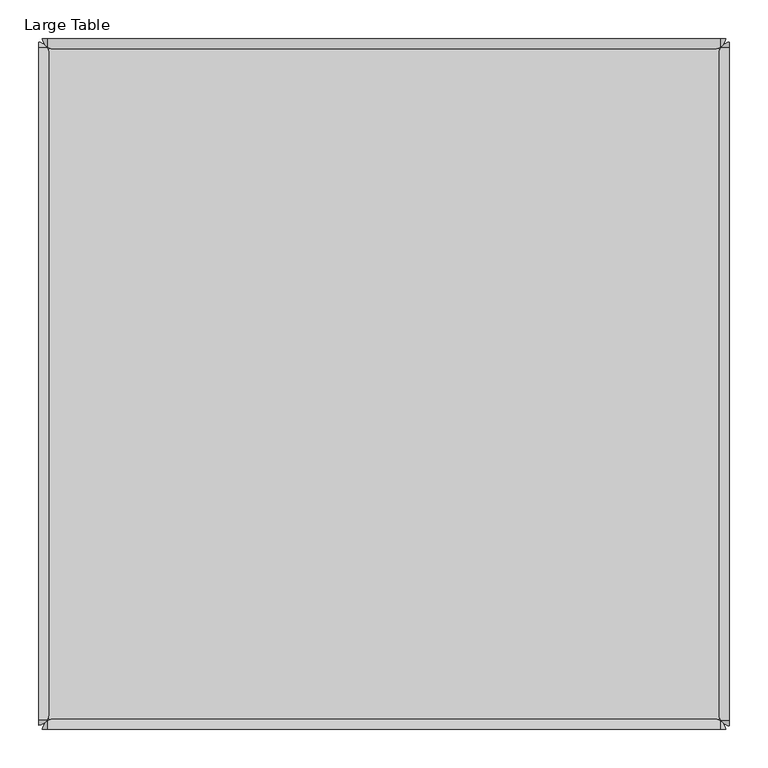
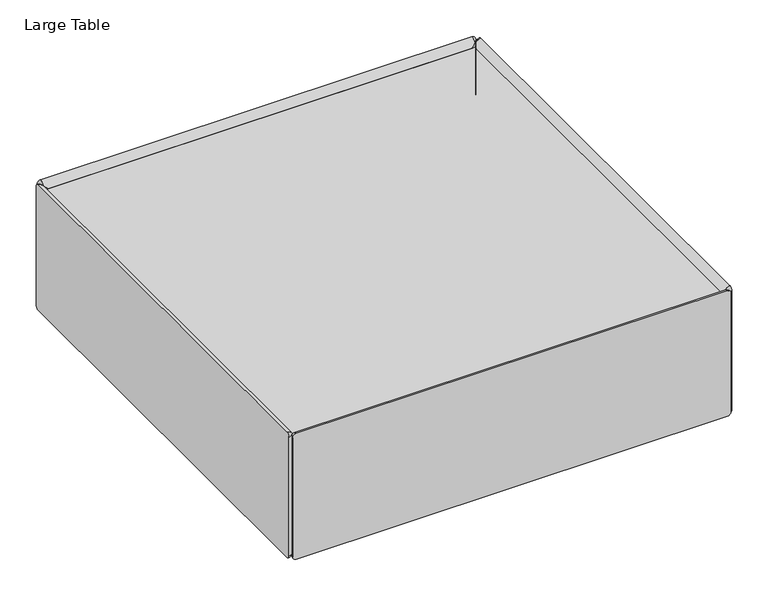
"""IFC4 building model written with IfcOpenShell, lengths in millimetres: furniture geometry, Stylex - Yoom Table : Large Table."""

from ifc_helpers import new_model, si_unit, point, frame, origin, place, context, project, spatial, polyline, circle_curve, ellipse_curve, trimmed, outline, extrude, source, transform, mapped, element, save
from ifc_brep_helpers import plane_surface, cylinder_surface, revolved_surface, advanced_brep


def large_table_a205c7c4(model_context):
    return source(origin(), model_context, "Body", "SolidModel", [
        advanced_brep(
        [(440.0098719, -444.5, 284.9798269), (440.0098719, -444.5, 32.6238748), (432.8643302, -433.6501466, 32.6238748), (425.7223719, -431.7512608, 39.765833), (425.7223719, -431.7512608, 277.8378687), (432.8643302, -433.6501466, 284.9798269), (432.8643302, -444.5, 25.478333), (-432.8643302, -444.5, 25.478333), (-432.8643302, -433.6501466, 32.6238748), (-425.7223719, -431.7512608, 39.765833), (-440.0098719, -444.5, 32.6238748), (-440.0098719, -444.5, 284.9798269), (-432.8643302, -433.6501466, 284.9798269), (-425.7223719, -431.7512608, 277.8378687), (432.8643302, -444.5, 292.1253687), (-432.8643302, -444.5, 292.1253687)],
        [
            (0, 1),
            (1, 2, circle_curve(frame((425.7223719, -446.1316243, 32.6238748), z_axis=(0.0, 0.0, 1.0), x_axis=(1.0, 0.0, 0.0)), 14.3803635)),
            (2, 3, ellipse_curve(frame((425.7223719, -446.1316243, 39.765833), z_axis=(0.7071067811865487, 0.0, 0.7071067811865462), x_axis=(-0.7071067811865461, 0.0, 0.7071067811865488)), 20.3369051, 14.3803635)),
            (3, 4),
            (4, 5, ellipse_curve(frame((425.7223719, -446.1316243, 277.8378687), z_axis=(0.7071067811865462, 0.0, -0.7071067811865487), x_axis=(0.7071067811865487, 0.0, 0.7071067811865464)), 20.3369051, 14.3803635)),
            (5, 0, circle_curve(frame((425.7223719, -446.1316243, 284.9798269), z_axis=(0.0, 0.0, -1.0), x_axis=(1.0, 0.0, 0.0)), 14.3803635)),
            (2, 6, circle_curve(frame((432.8643302, -446.1316243, 39.765833), z_axis=(-1.0, 0.0, 0.0), x_axis=(0.0, 0.0, -1.0)), 14.3803635)),
            (6, 7),
            (7, 8, circle_curve(frame((-432.8643302, -446.1316243, 39.765833), z_axis=(1.0, 0.0, 0.0), x_axis=(0.0, 0.0, -1.0)), 14.3803635)),
            (8, 9, ellipse_curve(frame((-425.7223719, -446.1316243, 39.765833), z_axis=(0.7071067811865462, 0.0, -0.7071067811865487), x_axis=(0.7071067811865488, 0.0, 0.7071067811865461)), 20.3369051, 14.3803635)),
            (9, 3),
            (8, 10, circle_curve(frame((-425.7223719, -446.1316243, 32.6238748), z_axis=(0.0, 0.0, 1.0), x_axis=(-1.0, 0.0, 0.0)), 14.3803635)),
            (10, 11),
            (11, 12, circle_curve(frame((-425.7223719, -446.1316243, 284.9798269), z_axis=(0.0, 0.0, -1.0), x_axis=(-1.0, 0.0, 0.0)), 14.3803635)),
            (12, 13, ellipse_curve(frame((-425.7223719, -446.1316243, 277.8378687), z_axis=(-0.7071067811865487, 0.0, -0.7071067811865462), x_axis=(0.7071067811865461, 0.0, -0.7071067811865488)), 20.3369051, 14.3803635)),
            (13, 9),
            (0, 14, circle_curve(frame((432.8643302, -444.5, 284.9798269), z_axis=(0.0, -1.0, 0.0), x_axis=(0.0, 0.0, 1.0)), 7.1455418)),
            (14, 15),
            (15, 11, circle_curve(frame((-432.8643302, -444.5, 284.9798269), z_axis=(0.0, -1.0, 0.0), x_axis=(0.0, 0.0, 1.0)), 7.1455418)),
            (10, 7, circle_curve(frame((-432.8643302, -444.5, 32.6238748), z_axis=(0.0, -1.0, 0.0), x_axis=(0.0, 0.0, -1.0)), 7.1455418)),
            (6, 1, circle_curve(frame((432.8643302, -444.5, 32.6238748), z_axis=(0.0, -1.0, 0.0), x_axis=(0.0, 0.0, -1.0)), 7.1455418)),
            (12, 15, circle_curve(frame((-432.8643302, -446.1316243, 277.8378687), z_axis=(1.0, 0.0, 0.0), x_axis=(0.0, 0.0, 1.0)), 14.3803635)),
            (14, 5, circle_curve(frame((432.8643302, -446.1316243, 277.8378687), z_axis=(-1.0, 0.0, 0.0), x_axis=(0.0, 0.0, 1.0)), 14.3803635)),
            (4, 13),
        ],
        [
            cylinder_surface(frame((425.7223719, -446.1316243, 277.8378687), z_axis=(0.0, 0.0, 1.0), x_axis=(1.0, 0.0, 0.0)), 14.3803635),
            cylinder_surface(frame((425.7223719, -446.1316243, 39.765833), z_axis=(1.0, 0.0, 0.0), x_axis=(0.0, 0.0, -1.0)), 14.3803635),
            cylinder_surface(frame((-425.7223719, -446.1316243, 39.765833), z_axis=(0.0, 0.0, -1.0), x_axis=(-1.0, 0.0, 0.0)), 14.3803635),
            plane_surface(frame((-425.7223719, -444.5, 277.8378687), z_axis=(0.0, -1.0, 0.0), x_axis=(1.0, 0.0, 0.0))),
            cylinder_surface(frame((-425.7223719, -446.1316243, 277.8378687), z_axis=(-1.0, 0.0, 0.0), x_axis=(0.0, 0.0, 1.0)), 14.3803635),
            revolved_surface(trimmed(ellipse_curve(frame((-432.8643302, -446.1316243, 277.8378687), z_axis=(-1.0, 0.0, 0.0), x_axis=(0.0, 0.0, -1.0)), 14.3803635, 14.3803635), [point((-432.8643302, -444.5, 292.1253687))], [point((-432.8643302, -433.6501466, 284.9798269))], True, "CARTESIAN"), (-432.8643302, -431.7512608, 284.9798269), (0.0, 1.0, 0.0)),
            plane_surface(frame((-425.7223719, -431.7512608, 277.8378687), z_axis=(0.0, 1.0, 0.0), x_axis=(1.0, 0.0, 0.0))),
            revolved_surface(trimmed(ellipse_curve(frame((-432.8643302, -446.1316243, 39.765833), z_axis=(-1.0, 0.0, 0.0), x_axis=(0.0, 0.0, 1.0)), 14.3803635, 14.3803635), [point((-432.8643302, -433.6501466, 32.6238748))], [point((-432.8643302, -444.5, 25.478333))], True, "CARTESIAN"), (-432.8643302, -431.7512608, 32.6238748), (0.0, -1.0, 0.0)),
            revolved_surface(trimmed(ellipse_curve(frame((432.8643302, -446.1316243, 39.765833), z_axis=(1.0, 0.0, 0.0), x_axis=(0.0, 0.0, -1.0)), 14.3803635, 14.3803635), [point((432.8643302, -444.5, 25.478333))], [point((432.8643302, -433.6501466, 32.6238748))], True, "CARTESIAN"), (432.8643302, -431.7512608, 32.6238748), (0.0, 1.0, 0.0)),
            revolved_surface(trimmed(ellipse_curve(frame((432.8643302, -446.1316243, 277.8378687), z_axis=(1.0, 0.0, 0.0), x_axis=(0.0, 0.0, -1.0)), 14.3803635, 14.3803635), [point((432.8643302, -433.6501466, 284.9798269))], [point((432.8643302, -444.5, 292.1253687))], True, "CARTESIAN"), (432.8643302, -431.7512608, 284.9798269), (0.0, -1.0, 0.0)),
        ],
        [
            (0, [[1, 2, 3, 4, 5, 6]]),
            (1, [[-3, 7, 8, 9, 10, 11]]),
            (2, [[-10, 12, 13, 14, 15, 16]]),
            (3, [[-1, 17, 18, 19, -13, 20, -8, 21]]),
            (4, [[-15, 22, -18, 23, -5, 24]]),
            (5, [[-19, -22, -14]]),
            (6, [[-4, -11, -16, -24]]),
            (7, [[-20, -12, -9]]),
            (8, [[-21, -7, -2]]),
            (9, [[-17, -6, -23]]),
        ],
    ),
        advanced_brep(
        [(-440.0098719, 444.5, 284.9798269), (-440.0098719, 444.5, 32.6238748), (-432.8643302, 433.6501466, 32.6238748), (-425.7223719, 431.7512608, 39.765833), (-425.7223719, 431.7512608, 277.8378687), (-432.8643302, 433.6501466, 284.9798269), (-432.8643302, 444.5, 25.478333), (432.8643302, 444.5, 25.478333), (432.8643302, 433.6501466, 32.6238748), (425.7223719, 431.7512608, 39.765833), (440.0098719, 444.5, 32.6238748), (440.0098719, 444.5, 284.9798269), (432.8643302, 433.6501466, 284.9798269), (425.7223719, 431.7512608, 277.8378687), (-432.8643302, 444.5, 292.1253687), (432.8643302, 444.5, 292.1253687)],
        [
            (0, 1),
            (1, 2, circle_curve(frame((-425.7223719, 446.1316243, 32.6238748), z_axis=(0.0, 0.0, 1.0), x_axis=(-1.0, 0.0, 0.0)), 14.3803635)),
            (2, 3, ellipse_curve(frame((-425.7223719, 446.1316243, 39.765833), z_axis=(-0.7071067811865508, 0.0, 0.7071067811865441), x_axis=(0.7071067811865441, 0.0, 0.7071067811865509)), 20.3369051, 14.3803635)),
            (3, 4),
            (4, 5, ellipse_curve(frame((-425.7223719, 446.1316243, 277.8378687), z_axis=(-0.7071067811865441, 0.0, -0.7071067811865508), x_axis=(-0.7071067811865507, 0.0, 0.7071067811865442)), 20.3369051, 14.3803635)),
            (5, 0, circle_curve(frame((-425.7223719, 446.1316243, 284.9798269), z_axis=(0.0, 0.0, -1.0), x_axis=(-1.0, 0.0, 0.0)), 14.3803635)),
            (2, 6, circle_curve(frame((-432.8643302, 446.1316243, 39.765833), z_axis=(1.0, 0.0, 0.0), x_axis=(0.0, 0.0, -1.0)), 14.3803635)),
            (6, 7),
            (7, 8, circle_curve(frame((432.8643302, 446.1316243, 39.765833), z_axis=(-1.0, 0.0, 0.0), x_axis=(0.0, 0.0, -1.0)), 14.3803635)),
            (8, 9, ellipse_curve(frame((425.7223719, 446.1316243, 39.765833), z_axis=(-0.7071067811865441, 0.0, -0.7071067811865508), x_axis=(-0.7071067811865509, 0.0, 0.7071067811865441)), 20.3369051, 14.3803635)),
            (9, 3),
            (8, 10, circle_curve(frame((425.7223719, 446.1316243, 32.6238748), z_axis=(0.0, 0.0, 1.0), x_axis=(1.0, 0.0, 0.0)), 14.3803635)),
            (10, 11),
            (11, 12, circle_curve(frame((425.7223719, 446.1316243, 284.9798269), z_axis=(0.0, 0.0, -1.0), x_axis=(1.0, 0.0, 0.0)), 14.3803635)),
            (12, 13, ellipse_curve(frame((425.7223719, 446.1316243, 277.8378687), z_axis=(0.7071067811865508, 0.0, -0.7071067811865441), x_axis=(-0.7071067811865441, 0.0, -0.7071067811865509)), 20.3369051, 14.3803635)),
            (13, 9),
            (0, 14, circle_curve(frame((-432.8643302, 444.5, 284.9798269), z_axis=(0.0, 1.0, 0.0), x_axis=(0.0, 0.0, 1.0)), 7.1455418)),
            (14, 15),
            (15, 11, circle_curve(frame((432.8643302, 444.5, 284.9798269), z_axis=(0.0, 1.0, 0.0), x_axis=(0.0, 0.0, 1.0)), 7.1455418)),
            (10, 7, circle_curve(frame((432.8643302, 444.5, 32.6238748), z_axis=(0.0, 1.0, 0.0), x_axis=(0.0, 0.0, -1.0)), 7.1455418)),
            (6, 1, circle_curve(frame((-432.8643302, 444.5, 32.6238748), z_axis=(0.0, 1.0, 0.0), x_axis=(0.0, 0.0, -1.0)), 7.1455418)),
            (12, 15, circle_curve(frame((432.8643302, 446.1316243, 277.8378687), z_axis=(-1.0, 0.0, 0.0), x_axis=(0.0, 0.0, 1.0)), 14.3803635)),
            (14, 5, circle_curve(frame((-432.8643302, 446.1316243, 277.8378687), z_axis=(1.0, 0.0, 0.0), x_axis=(0.0, 0.0, 1.0)), 14.3803635)),
            (4, 13),
        ],
        [
            cylinder_surface(frame((-425.7223719, 446.1316243, 277.8378687), z_axis=(0.0, 0.0, 1.0), x_axis=(-1.0, 0.0, 0.0)), 14.3803635),
            cylinder_surface(frame((-425.7223719, 446.1316243, 39.765833), z_axis=(-1.0, 0.0, 0.0), x_axis=(0.0, 0.0, -1.0)), 14.3803635),
            cylinder_surface(frame((425.7223719, 446.1316243, 39.765833), z_axis=(0.0, 0.0, -1.0), x_axis=(1.0, 0.0, 0.0)), 14.3803635),
            plane_surface(frame((425.7223719, 444.5, 277.8378687), z_axis=(0.0, 1.0, 0.0), x_axis=(-1.0, 0.0, 0.0))),
            cylinder_surface(frame((425.7223719, 446.1316243, 277.8378687), z_axis=(1.0, 0.0, 0.0), x_axis=(0.0, 0.0, 1.0)), 14.3803635),
            revolved_surface(trimmed(ellipse_curve(frame((432.8643302, 446.1316243, 277.8378687), z_axis=(1.0, 0.0, 0.0), x_axis=(0.0, 0.0, -1.0)), 14.3803635, 14.3803635), [point((432.8643302, 444.5, 292.1253687))], [point((432.8643302, 433.6501466, 284.9798269))], True, "CARTESIAN"), (432.8643302, 431.7512608, 284.9798269), (0.0, -1.0, 0.0)),
            plane_surface(frame((425.7223719, 431.7512608, 277.8378687), z_axis=(0.0, -1.0, 0.0), x_axis=(-1.0, 0.0, 0.0))),
            revolved_surface(trimmed(ellipse_curve(frame((432.8643302, 446.1316243, 39.765833), z_axis=(1.0, 0.0, 0.0), x_axis=(0.0, 0.0, 1.0)), 14.3803635, 14.3803635), [point((432.8643302, 433.6501466, 32.6238748))], [point((432.8643302, 444.5, 25.478333))], True, "CARTESIAN"), (432.8643302, 431.7512608, 32.6238748), (0.0, 1.0, 0.0)),
            revolved_surface(trimmed(ellipse_curve(frame((-432.8643302, 446.1316243, 39.765833), z_axis=(-1.0, 0.0, 0.0), x_axis=(0.0, 0.0, -1.0)), 14.3803635, 14.3803635), [point((-432.8643302, 444.5, 25.478333))], [point((-432.8643302, 433.6501466, 32.6238748))], True, "CARTESIAN"), (-432.8643302, 431.7512608, 32.6238748), (0.0, -1.0, 0.0)),
            revolved_surface(trimmed(ellipse_curve(frame((-432.8643302, 446.1316243, 277.8378687), z_axis=(-1.0, 0.0, 0.0), x_axis=(0.0, 0.0, -1.0)), 14.3803635, 14.3803635), [point((-432.8643302, 433.6501466, 284.9798269))], [point((-432.8643302, 444.5, 292.1253687))], True, "CARTESIAN"), (-432.8643302, 431.7512608, 284.9798269), (0.0, 1.0, 0.0)),
        ],
        [
            (0, [[1, 2, 3, 4, 5, 6]]),
            (1, [[-3, 7, 8, 9, 10, 11]]),
            (2, [[-10, 12, 13, 14, 15, 16]]),
            (3, [[-1, 17, 18, 19, -13, 20, -8, 21]]),
            (4, [[-15, 22, -18, 23, -5, 24]]),
            (5, [[-19, -22, -14]]),
            (6, [[-4, -11, -16, -24]]),
            (7, [[-20, -12, -9]]),
            (8, [[-21, -7, -2]]),
            (9, [[-17, -6, -23]]),
        ],
    ),
        advanced_brep(
        [(-444.5, 440.0098719, 32.6238748), (-444.5, 440.0098719, 284.9798269), (-433.6501466, 432.8643302, 284.9798269), (-431.7512608, 425.7223719, 277.8378687), (-431.7512608, 425.7223719, 39.765833), (-433.6501466, 432.8643302, 32.6238748), (-444.5, 432.8643302, 292.1253687), (-444.5, -432.1193193, 292.1253687), (-433.6501466, -432.1193193, 284.9798269), (-431.7512608, -424.9773611, 277.8378687), (-444.5, -439.2648611, 284.9798269), (-444.5, -439.2648611, 32.6238748), (-433.6501466, -432.1193193, 32.6238748), (-431.7512608, -424.9773611, 39.765833), (-444.5, 432.8643302, 25.478333), (-444.5, -432.1193193, 25.478333)],
        [
            (0, 1),
            (1, 2, circle_curve(frame((-446.1316243, 425.7223719, 284.9798269), z_axis=(0.0, 0.0, -1.0), x_axis=(0.0, 1.0, 0.0)), 14.3803635)),
            (2, 3, ellipse_curve(frame((-446.1316243, 425.7223719, 277.8378687), z_axis=(0.0, 0.7071067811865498, -0.7071067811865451), x_axis=(0.0, -0.7071067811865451, -0.70710678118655)), 20.3369051, 14.3803635)),
            (3, 4),
            (4, 5, ellipse_curve(frame((-446.1316243, 425.7223719, 39.765833), z_axis=(0.0, 0.7071067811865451, 0.7071067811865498), x_axis=(0.0, 0.7071067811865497, -0.7071067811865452)), 20.3369051, 14.3803635)),
            (5, 0, circle_curve(frame((-446.1316243, 425.7223719, 32.6238748), z_axis=(0.0, 0.0, 1.0), x_axis=(0.0, 1.0, 0.0)), 14.3803635)),
            (2, 6, circle_curve(frame((-446.1316243, 432.8643302, 277.8378687), z_axis=(0.0, -1.0, 0.0), x_axis=(0.0, 0.0, 1.0)), 14.3803635)),
            (6, 7),
            (7, 8, circle_curve(frame((-446.1316243, -432.1193193, 277.8378687), z_axis=(0.0, 1.0, 0.0), x_axis=(0.0, 0.0, 1.0)), 14.3803635)),
            (8, 9, ellipse_curve(frame((-446.1316243, -424.9773611, 277.8378687), z_axis=(0.0, 0.7071067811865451, 0.7071067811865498), x_axis=(0.0, 0.70710678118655, -0.7071067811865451)), 20.3369051, 14.3803635)),
            (9, 3),
            (8, 10, circle_curve(frame((-446.1316243, -424.9773611, 284.9798269), z_axis=(0.0, 0.0, -1.0), x_axis=(0.0, -1.0, 0.0)), 14.3803635)),
            (10, 11),
            (11, 12, circle_curve(frame((-446.1316243, -424.9773611, 32.6238748), z_axis=(0.0, 0.0, 1.0), x_axis=(0.0, -1.0, 0.0)), 14.3803635)),
            (12, 13, ellipse_curve(frame((-446.1316243, -424.9773611, 39.765833), z_axis=(0.0, -0.7071067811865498, 0.7071067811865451), x_axis=(0.0, 0.7071067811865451, 0.70710678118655)), 20.3369051, 14.3803635)),
            (13, 9),
            (0, 14, circle_curve(frame((-444.5, 432.8643302, 32.6238748), z_axis=(-1.0, 0.0, 0.0), x_axis=(0.0, 0.0, -1.0)), 7.1455418)),
            (14, 15),
            (15, 11, circle_curve(frame((-444.5, -432.1193193, 32.6238748), z_axis=(-1.0, 0.0, 0.0), x_axis=(0.0, 0.0, -1.0)), 7.1455418)),
            (10, 7, circle_curve(frame((-444.5, -432.1193193, 284.9798269), z_axis=(-1.0, 0.0, 0.0), x_axis=(0.0, 0.0, 1.0)), 7.1455418)),
            (6, 1, circle_curve(frame((-444.5, 432.8643302, 284.9798269), z_axis=(-1.0, 0.0, 0.0), x_axis=(0.0, 0.0, 1.0)), 7.1455418)),
            (12, 15, circle_curve(frame((-446.1316243, -432.1193193, 39.765833), z_axis=(0.0, 1.0, 0.0), x_axis=(0.0, 0.0, -1.0)), 14.3803635)),
            (14, 5, circle_curve(frame((-446.1316243, 432.8643302, 39.765833), z_axis=(0.0, -1.0, 0.0), x_axis=(0.0, 0.0, -1.0)), 14.3803635)),
            (4, 13),
        ],
        [
            cylinder_surface(frame((-446.1316243, 425.7223719, 39.765833), z_axis=(0.0, 0.0, -1.0), x_axis=(0.0, 1.0, 0.0)), 14.3803635),
            cylinder_surface(frame((-446.1316243, 425.7223719, 277.8378687), z_axis=(0.0, 1.0, 0.0), x_axis=(0.0, 0.0, 1.0)), 14.3803635),
            cylinder_surface(frame((-446.1316243, -424.9773611, 277.8378687), z_axis=(0.0, 0.0, 1.0), x_axis=(0.0, -1.0, 0.0)), 14.3803635),
            plane_surface(frame((-444.5, -424.9773611, 39.765833), z_axis=(-1.0, 0.0, 0.0), x_axis=(0.0, 1.0, 0.0))),
            cylinder_surface(frame((-446.1316243, -424.9773611, 39.765833), z_axis=(0.0, -1.0, 0.0), x_axis=(0.0, 0.0, -1.0)), 14.3803635),
            revolved_surface(trimmed(ellipse_curve(frame((-446.1316243, -432.1193193, 39.765833), z_axis=(0.0, -1.0, 0.0), x_axis=(0.0, 0.0, 1.0)), 14.3803635, 14.3803635), [point((-444.5, -432.1193193, 25.478333))], [point((-433.6501466, -432.1193193, 32.6238748))], True, "CARTESIAN"), (-431.7512608, -432.1193193, 32.6238748), (1.0, 0.0, 0.0)),
            plane_surface(frame((-431.7512608, -424.9773611, 39.765833), z_axis=(1.0, 0.0, 0.0), x_axis=(0.0, 1.0, 0.0))),
            revolved_surface(trimmed(ellipse_curve(frame((-446.1316243, -432.1193193, 277.8378687), z_axis=(0.0, -1.0, 0.0), x_axis=(0.0, 0.0, -1.0)), 14.3803635, 14.3803635), [point((-433.6501466, -432.1193193, 284.9798269))], [point((-444.5, -432.1193193, 292.1253687))], True, "CARTESIAN"), (-431.7512608, -432.1193193, 284.9798269), (-1.0, 0.0, 0.0)),
            revolved_surface(trimmed(ellipse_curve(frame((-446.1316243, 432.8643302, 277.8378687), z_axis=(0.0, 1.0, 0.0), x_axis=(0.0, 0.0, 1.0)), 14.3803635, 14.3803635), [point((-444.5, 432.8643302, 292.1253687))], [point((-433.6501466, 432.8643302, 284.9798269))], True, "CARTESIAN"), (-431.7512608, 432.8643302, 284.9798269), (1.0, 0.0, 0.0)),
            revolved_surface(trimmed(ellipse_curve(frame((-446.1316243, 432.8643302, 39.765833), z_axis=(0.0, 1.0, 0.0), x_axis=(0.0, 0.0, 1.0)), 14.3803635, 14.3803635), [point((-433.6501466, 432.8643302, 32.6238748))], [point((-444.5, 432.8643302, 25.478333))], True, "CARTESIAN"), (-431.7512608, 432.8643302, 32.6238748), (-1.0, 0.0, 0.0)),
        ],
        [
            (0, [[1, 2, 3, 4, 5, 6]]),
            (1, [[-3, 7, 8, 9, 10, 11]]),
            (2, [[-10, 12, 13, 14, 15, 16]]),
            (3, [[-1, 17, 18, 19, -13, 20, -8, 21]]),
            (4, [[-15, 22, -18, 23, -5, 24]]),
            (5, [[-19, -22, -14]]),
            (6, [[-4, -11, -16, -24]]),
            (7, [[-20, -12, -9]]),
            (8, [[-21, -7, -2]]),
            (9, [[-17, -6, -23]]),
        ],
    ),
        advanced_brep(
        [(444.5, -440.0098719, 32.4979399), (444.5, -440.0098719, 284.8538921), (433.6501466, -432.8643302, 284.8538921), (431.7512608, -425.7223719, 277.7119339), (431.7512608, -425.7223719, 39.6398982), (433.6501466, -432.8643302, 32.4979399), (444.5, -432.8643302, 291.9994339), (444.5, 432.8643302, 291.9994339), (433.6501466, 432.8643302, 284.8538921), (431.7512608, 425.7223719, 277.7119339), (444.5, 440.0098719, 284.8538921), (444.5, 440.0098719, 32.4979399), (433.6501466, 432.8643302, 32.4979399), (431.7512608, 425.7223719, 39.6398982), (444.5, -432.8643302, 25.3523982), (444.5, 432.8643302, 25.3523982)],
        [
            (0, 1),
            (1, 2, circle_curve(frame((446.1316243, -425.7223719, 284.8538921), z_axis=(0.0, 0.0, -1.0), x_axis=(0.0, -1.0, 0.0)), 14.3803635)),
            (2, 3, ellipse_curve(frame((446.1316243, -425.7223719, 277.7119339), z_axis=(0.0, -0.7071067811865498, -0.7071067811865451), x_axis=(0.0, 0.7071067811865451, -0.70710678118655)), 20.3369051, 14.3803635)),
            (3, 4),
            (4, 5, ellipse_curve(frame((446.1316243, -425.7223719, 39.6398982), z_axis=(0.0, -0.7071067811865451, 0.7071067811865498), x_axis=(0.0, -0.7071067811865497, -0.7071067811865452)), 20.3369051, 14.3803635)),
            (5, 0, circle_curve(frame((446.1316243, -425.7223719, 32.4979399), z_axis=(0.0, 0.0, 1.0), x_axis=(0.0, -1.0, 0.0)), 14.3803635)),
            (2, 6, circle_curve(frame((446.1316243, -432.8643302, 277.7119339), z_axis=(0.0, 1.0, 0.0), x_axis=(0.0, 0.0, 1.0)), 14.3803635)),
            (6, 7),
            (7, 8, circle_curve(frame((446.1316243, 432.8643302, 277.7119339), z_axis=(0.0, -1.0, 0.0), x_axis=(0.0, 0.0, 1.0)), 14.3803635)),
            (8, 9, ellipse_curve(frame((446.1316243, 425.7223719, 277.7119339), z_axis=(0.0, -0.7071067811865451, 0.7071067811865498), x_axis=(0.0, -0.70710678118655, -0.7071067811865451)), 20.3369051, 14.3803635)),
            (9, 3),
            (8, 10, circle_curve(frame((446.1316243, 425.7223719, 284.8538921), z_axis=(0.0, 0.0, -1.0), x_axis=(0.0, 1.0, 0.0)), 14.3803635)),
            (10, 11),
            (11, 12, circle_curve(frame((446.1316243, 425.7223719, 32.4979399), z_axis=(0.0, 0.0, 1.0), x_axis=(0.0, 1.0, 0.0)), 14.3803635)),
            (12, 13, ellipse_curve(frame((446.1316243, 425.7223719, 39.6398982), z_axis=(0.0, 0.7071067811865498, 0.7071067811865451), x_axis=(0.0, -0.7071067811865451, 0.70710678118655)), 20.3369051, 14.3803635)),
            (13, 9),
            (0, 14, circle_curve(frame((444.5, -432.8643302, 32.4979399), z_axis=(1.0, 0.0, 0.0), x_axis=(0.0, 0.0, -1.0)), 7.1455418)),
            (14, 15),
            (15, 11, circle_curve(frame((444.5, 432.8643302, 32.4979399), z_axis=(1.0, 0.0, 0.0), x_axis=(0.0, 0.0, -1.0)), 7.1455418)),
            (10, 7, circle_curve(frame((444.5, 432.8643302, 284.8538921), z_axis=(1.0, 0.0, 0.0), x_axis=(0.0, 0.0, 1.0)), 7.1455418)),
            (6, 1, circle_curve(frame((444.5, -432.8643302, 284.8538921), z_axis=(1.0, 0.0, 0.0), x_axis=(0.0, 0.0, 1.0)), 7.1455418)),
            (12, 15, circle_curve(frame((446.1316243, 432.8643302, 39.6398982), z_axis=(0.0, -1.0, 0.0), x_axis=(0.0, 0.0, -1.0)), 14.3803635)),
            (14, 5, circle_curve(frame((446.1316243, -432.8643302, 39.6398982), z_axis=(0.0, 1.0, 0.0), x_axis=(0.0, 0.0, -1.0)), 14.3803635)),
            (4, 13),
        ],
        [
            cylinder_surface(frame((446.1316243, -425.7223719, 39.6398982), z_axis=(0.0, 0.0, -1.0), x_axis=(0.0, -1.0, 0.0)), 14.3803635),
            cylinder_surface(frame((446.1316243, -425.7223719, 277.7119339), z_axis=(0.0, -1.0, 0.0), x_axis=(0.0, 0.0, 1.0)), 14.3803635),
            cylinder_surface(frame((446.1316243, 425.7223719, 277.7119339), z_axis=(0.0, 0.0, 1.0), x_axis=(0.0, 1.0, 0.0)), 14.3803635),
            plane_surface(frame((444.5, 425.7223719, 39.6398982), z_axis=(1.0, 0.0, 0.0), x_axis=(0.0, -1.0, 0.0))),
            cylinder_surface(frame((446.1316243, 425.7223719, 39.6398982), z_axis=(0.0, 1.0, 0.0), x_axis=(0.0, 0.0, -1.0)), 14.3803635),
            revolved_surface(trimmed(ellipse_curve(frame((446.1316243, 432.8643302, 39.6398982), z_axis=(0.0, 1.0, 0.0), x_axis=(0.0, 0.0, 1.0)), 14.3803635, 14.3803635), [point((444.5, 432.8643302, 25.3523982))], [point((433.6501466, 432.8643302, 32.4979399))], True, "CARTESIAN"), (431.7512608, 432.8643302, 32.4979399), (-1.0, 0.0, 0.0)),
            plane_surface(frame((431.7512608, 425.7223719, 39.6398982), z_axis=(-1.0, 0.0, 0.0), x_axis=(0.0, -1.0, 0.0))),
            revolved_surface(trimmed(ellipse_curve(frame((446.1316243, 432.8643302, 277.7119339), z_axis=(0.0, 1.0, 0.0), x_axis=(0.0, 0.0, -1.0)), 14.3803635, 14.3803635), [point((433.6501466, 432.8643302, 284.8538921))], [point((444.5, 432.8643302, 291.9994339))], True, "CARTESIAN"), (431.7512608, 432.8643302, 284.8538921), (1.0, 0.0, 0.0)),
            revolved_surface(trimmed(ellipse_curve(frame((446.1316243, -432.8643302, 277.7119339), z_axis=(0.0, -1.0, 0.0), x_axis=(0.0, 0.0, 1.0)), 14.3803635, 14.3803635), [point((444.5, -432.8643302, 291.9994339))], [point((433.6501466, -432.8643302, 284.8538921))], True, "CARTESIAN"), (431.7512608, -432.8643302, 284.8538921), (-1.0, 0.0, 0.0)),
            revolved_surface(trimmed(ellipse_curve(frame((446.1316243, -432.8643302, 39.6398982), z_axis=(0.0, -1.0, 0.0), x_axis=(0.0, 0.0, 1.0)), 14.3803635, 14.3803635), [point((433.6501466, -432.8643302, 32.4979399))], [point((444.5, -432.8643302, 25.3523982))], True, "CARTESIAN"), (431.7512608, -432.8643302, 32.4979399), (1.0, 0.0, 0.0)),
        ],
        [
            (0, [[1, 2, 3, 4, 5, 6]]),
            (1, [[-3, 7, 8, 9, 10, 11]]),
            (2, [[-10, 12, 13, 14, 15, 16]]),
            (3, [[-1, 17, 18, 19, -13, 20, -8, 21]]),
            (4, [[-15, 22, -18, 23, -5, 24]]),
            (5, [[-19, -22, -14]]),
            (6, [[-4, -11, -16, -24]]),
            (7, [[-20, -12, -9]]),
            (8, [[-21, -7, -2]]),
            (9, [[-17, -6, -23]]),
        ],
    ),
        advanced_brep(
        [(-301.4292652, -339.725, 32.7025006), (-365.3725901, -339.725, 32.7025006), (-333.4009276, -339.725, 32.7025006), (-301.4292652, -339.725, 15.461663), (-365.3725901, -339.725, 15.461663), (-309.5884276, -339.725, 7.3025006), (-357.2134276, -339.725, 7.3025006), (-309.5884276, -339.725, 4.7625006), (-357.2134276, -339.725, 4.7625006), (-311.1759276, -339.725, 4.7625006), (-355.6259276, -339.725, 4.7625006), (-311.1759276, -339.725, 6e-07), (-355.6259276, -339.725, 6e-07), (-333.4009276, -339.725, 6e-07)],
        [
            (0, 1, circle_curve(frame((-333.4009276, -339.725, 32.7025006), z_axis=(0.0, 0.0, 1.0), x_axis=(-1.0, 0.0, 0.0)), 31.9716624)),
            (1, 2),
            (2, 0),
            (1, 0, circle_curve(frame((-333.4009276, -339.725, 32.7025006), z_axis=(0.0, 0.0, 1.0), x_axis=(-1.0, 0.0, 0.0)), 31.9716624)),
            (3, 4, circle_curve(frame((-333.4009276, -339.725, 15.461663), z_axis=(0.0, 0.0, 1.0), x_axis=(-1.0, 0.0, 0.0)), 31.9716624)),
            (4, 1),
            (0, 3),
            (4, 3, circle_curve(frame((-333.4009276, -339.725, 15.461663), z_axis=(0.0, 0.0, 1.0), x_axis=(-1.0, 0.0, 0.0)), 31.9716624)),
            (5, 6, circle_curve(frame((-333.4009276, -339.725, 7.3025006), z_axis=(0.0, 0.0, 1.0), x_axis=(-1.0, 0.0, 0.0)), 23.8125)),
            (6, 4, circle_curve(frame((-357.2134276, -339.725, 15.461663), z_axis=(0.0, 1.0, 0.0), x_axis=(1.0, 0.0, 0.0)), 8.1591624)),
            (3, 5, circle_curve(frame((-309.5884276, -339.725, 15.461663), z_axis=(0.0, 1.0, 0.0), x_axis=(-1.0, 0.0, 0.0)), 8.1591624)),
            (6, 5, circle_curve(frame((-333.4009276, -339.725, 7.3025006), z_axis=(0.0, 0.0, 1.0), x_axis=(-1.0, 0.0, 0.0)), 23.8125)),
            (7, 8, circle_curve(frame((-333.4009276, -339.725, 4.7625006), z_axis=(0.0, 0.0, 1.0), x_axis=(-1.0, 0.0, 0.0)), 23.8125)),
            (8, 6),
            (5, 7),
            (8, 7, circle_curve(frame((-333.4009276, -339.725, 4.7625006), z_axis=(0.0, 0.0, 1.0), x_axis=(-1.0, 0.0, 0.0)), 23.8125)),
            (9, 10, circle_curve(frame((-333.4009276, -339.725, 4.7625006), z_axis=(0.0, 0.0, 1.0), x_axis=(-1.0, 0.0, 0.0)), 22.225)),
            (10, 8),
            (7, 9),
            (10, 9, circle_curve(frame((-333.4009276, -339.725, 4.7625006), z_axis=(0.0, 0.0, 1.0), x_axis=(-1.0, 0.0, 0.0)), 22.225)),
            (11, 12, circle_curve(frame((-333.4009276, -339.725, 6e-07), z_axis=(0.0, 0.0, 1.0), x_axis=(-1.0, 0.0, 0.0)), 22.225)),
            (12, 10),
            (9, 11),
            (12, 11, circle_curve(frame((-333.4009276, -339.725, 6e-07), z_axis=(0.0, 0.0, 1.0), x_axis=(-1.0, 0.0, 0.0)), 22.225)),
            (13, 12),
            (11, 13),
        ],
        [
            plane_surface(frame((-333.4009276, -339.725, 32.7025006), z_axis=(0.0, 0.0, 1.0), x_axis=(-1.0, 0.0, 0.0))),
            cylinder_surface(frame((-333.4009276, -339.725, 6e-07), z_axis=(0.0, 0.0, -1.0), x_axis=(-1.0, 0.0, 0.0)), 31.9716624),
            revolved_surface(trimmed(ellipse_curve(frame((-357.2134276, -339.725, 15.461663), z_axis=(0.0, -1.0, 0.0), x_axis=(1.0, 0.0, 0.0)), 8.1591624, 8.1591624), [point((-365.3725901, -339.725, 15.461663))], [point((-357.2134276, -339.725, 7.3025006))], True, "CARTESIAN"), (-333.4009276, -339.725, 6e-07), (0.0, 0.0, -1.0)),
            cylinder_surface(frame((-333.4009276, -339.725, 6e-07), z_axis=(0.0, 0.0, -1.0), x_axis=(-1.0, 0.0, 0.0)), 23.8125),
            plane_surface(frame((-333.4009276, -339.725, 4.7625006), z_axis=(0.0, 0.0, -1.0), x_axis=(-1.0, 0.0, 0.0))),
            cylinder_surface(frame((-333.4009276, -339.725, 6e-07), z_axis=(0.0, 0.0, -1.0), x_axis=(-1.0, 0.0, 0.0)), 22.225),
            plane_surface(frame((-333.4009276, -339.725, 6e-07), z_axis=(0.0, 0.0, -1.0), x_axis=(-1.0, 0.0, 0.0))),
        ],
        [
            (0, [[1, 2, 3]]),
            (0, [[4, -3, -2]]),
            (1, [[5, 6, -1, 7]]),
            (1, [[8, -7, -4, -6]]),
            (2, [[9, 10, -5, 11]]),
            (2, [[12, -11, -8, -10]]),
            (3, [[13, 14, -9, 15]]),
            (3, [[16, -15, -12, -14]]),
            (4, [[17, 18, -13, 19]]),
            (4, [[20, -19, -16, -18]]),
            (5, [[21, 22, -17, 23]]),
            (5, [[24, -23, -20, -22]]),
            (6, [[25, -21, 26]]),
            (6, [[-26, -24, -25]]),
        ],
    ),
        advanced_brep(
        [(365.3725901, -339.725, 32.7025006), (301.4292652, -339.725, 32.7025006), (333.4009276, -339.725, 32.7025006), (365.3725901, -339.725, 15.461663), (301.4292652, -339.725, 15.461663), (357.2134276, -339.725, 7.3025006), (309.5884276, -339.725, 7.3025006), (357.2134276, -339.725, 4.7625006), (309.5884276, -339.725, 4.7625006), (355.6259276, -339.725, 4.7625006), (311.1759276, -339.725, 4.7625006), (355.6259276, -339.725, 6e-07), (311.1759276, -339.725, 6e-07), (333.4009276, -339.725, 6e-07)],
        [
            (0, 1, circle_curve(frame((333.4009276, -339.725, 32.7025006), z_axis=(0.0, 0.0, 1.0), x_axis=(-1.0, 0.0, 0.0)), 31.9716624)),
            (1, 2),
            (2, 0),
            (1, 0, circle_curve(frame((333.4009276, -339.725, 32.7025006), z_axis=(0.0, 0.0, 1.0), x_axis=(-1.0, 0.0, 0.0)), 31.9716624)),
            (3, 4, circle_curve(frame((333.4009276, -339.725, 15.461663), z_axis=(0.0, 0.0, 1.0), x_axis=(-1.0, 0.0, 0.0)), 31.9716624)),
            (4, 1),
            (0, 3),
            (4, 3, circle_curve(frame((333.4009276, -339.725, 15.461663), z_axis=(0.0, 0.0, 1.0), x_axis=(-1.0, 0.0, 0.0)), 31.9716624)),
            (5, 6, circle_curve(frame((333.4009276, -339.725, 7.3025006), z_axis=(0.0, 0.0, 1.0), x_axis=(-1.0, 0.0, 0.0)), 23.8125)),
            (6, 4, circle_curve(frame((309.5884276, -339.725, 15.461663), z_axis=(0.0, 1.0, 0.0), x_axis=(1.0, 0.0, 0.0)), 8.1591624)),
            (3, 5, circle_curve(frame((357.2134276, -339.725, 15.461663), z_axis=(0.0, 1.0, 0.0), x_axis=(-1.0, 0.0, 0.0)), 8.1591624)),
            (6, 5, circle_curve(frame((333.4009276, -339.725, 7.3025006), z_axis=(0.0, 0.0, 1.0), x_axis=(-1.0, 0.0, 0.0)), 23.8125)),
            (7, 8, circle_curve(frame((333.4009276, -339.725, 4.7625006), z_axis=(0.0, 0.0, 1.0), x_axis=(-1.0, 0.0, 0.0)), 23.8125)),
            (8, 6),
            (5, 7),
            (8, 7, circle_curve(frame((333.4009276, -339.725, 4.7625006), z_axis=(0.0, 0.0, 1.0), x_axis=(-1.0, 0.0, 0.0)), 23.8125)),
            (9, 10, circle_curve(frame((333.4009276, -339.725, 4.7625006), z_axis=(0.0, 0.0, 1.0), x_axis=(-1.0, 0.0, 0.0)), 22.225)),
            (10, 8),
            (7, 9),
            (10, 9, circle_curve(frame((333.4009276, -339.725, 4.7625006), z_axis=(0.0, 0.0, 1.0), x_axis=(-1.0, 0.0, 0.0)), 22.225)),
            (11, 12, circle_curve(frame((333.4009276, -339.725, 6e-07), z_axis=(0.0, 0.0, 1.0), x_axis=(-1.0, 0.0, 0.0)), 22.225)),
            (12, 10),
            (9, 11),
            (12, 11, circle_curve(frame((333.4009276, -339.725, 6e-07), z_axis=(0.0, 0.0, 1.0), x_axis=(-1.0, 0.0, 0.0)), 22.225)),
            (13, 12),
            (11, 13),
        ],
        [
            plane_surface(frame((333.4009276, -339.725, 32.7025006), z_axis=(0.0, 0.0, 1.0), x_axis=(-1.0, 0.0, 0.0))),
            cylinder_surface(frame((333.4009276, -339.725, 6e-07), z_axis=(0.0, 0.0, -1.0), x_axis=(-1.0, 0.0, 0.0)), 31.9716624),
            revolved_surface(trimmed(ellipse_curve(frame((309.5884276, -339.725, 15.461663), z_axis=(0.0, -1.0, 0.0), x_axis=(1.0, 0.0, 0.0)), 8.1591624, 8.1591624), [point((301.4292652, -339.725, 15.461663))], [point((309.5884276, -339.725, 7.3025006))], True, "CARTESIAN"), (333.4009276, -339.725, 6e-07), (0.0, 0.0, -1.0)),
            cylinder_surface(frame((333.4009276, -339.725, 6e-07), z_axis=(0.0, 0.0, -1.0), x_axis=(-1.0, 0.0, 0.0)), 23.8125),
            plane_surface(frame((333.4009276, -339.725, 4.7625006), z_axis=(0.0, 0.0, -1.0), x_axis=(-1.0, 0.0, 0.0))),
            cylinder_surface(frame((333.4009276, -339.725, 6e-07), z_axis=(0.0, 0.0, -1.0), x_axis=(-1.0, 0.0, 0.0)), 22.225),
            plane_surface(frame((333.4009276, -339.725, 6e-07), z_axis=(0.0, 0.0, -1.0), x_axis=(-1.0, 0.0, 0.0))),
        ],
        [
            (0, [[1, 2, 3]]),
            (0, [[4, -3, -2]]),
            (1, [[5, 6, -1, 7]]),
            (1, [[8, -7, -4, -6]]),
            (2, [[9, 10, -5, 11]]),
            (2, [[12, -11, -8, -10]]),
            (3, [[13, 14, -9, 15]]),
            (3, [[16, -15, -12, -14]]),
            (4, [[17, 18, -13, 19]]),
            (4, [[20, -19, -16, -18]]),
            (5, [[21, 22, -17, 23]]),
            (5, [[24, -23, -20, -22]]),
            (6, [[25, -21, 26]]),
            (6, [[-26, -24, -25]]),
        ],
    ),
        advanced_brep(
        [(365.3725901, 339.725, 32.7025006), (301.4292652, 339.725, 32.7025006), (333.4009276, 339.725, 32.7025006), (365.3725901, 339.725, 15.461663), (301.4292652, 339.725, 15.461663), (357.2134276, 339.725, 7.3025006), (309.5884276, 339.725, 7.3025006), (357.2134276, 339.725, 4.7625006), (309.5884276, 339.725, 4.7625006), (355.6259276, 339.725, 4.7625006), (311.1759276, 339.725, 4.7625006), (355.6259276, 339.725, 6e-07), (311.1759276, 339.725, 6e-07), (333.4009276, 339.725, 6e-07)],
        [
            (0, 1, circle_curve(frame((333.4009276, 339.725, 32.7025006), z_axis=(0.0, 0.0, 1.0), x_axis=(-1.0, 0.0, 0.0)), 31.9716624)),
            (1, 2),
            (2, 0),
            (1, 0, circle_curve(frame((333.4009276, 339.725, 32.7025006), z_axis=(0.0, 0.0, 1.0), x_axis=(-1.0, 0.0, 0.0)), 31.9716624)),
            (3, 4, circle_curve(frame((333.4009276, 339.725, 15.461663), z_axis=(0.0, 0.0, 1.0), x_axis=(-1.0, 0.0, 0.0)), 31.9716624)),
            (4, 1),
            (0, 3),
            (4, 3, circle_curve(frame((333.4009276, 339.725, 15.461663), z_axis=(0.0, 0.0, 1.0), x_axis=(-1.0, 0.0, 0.0)), 31.9716624)),
            (5, 6, circle_curve(frame((333.4009276, 339.725, 7.3025006), z_axis=(0.0, 0.0, 1.0), x_axis=(-1.0, 0.0, 0.0)), 23.8125)),
            (6, 4, circle_curve(frame((309.5884276, 339.725, 15.461663), z_axis=(0.0, 1.0, 0.0), x_axis=(1.0, 0.0, 0.0)), 8.1591624)),
            (3, 5, circle_curve(frame((357.2134276, 339.725, 15.461663), z_axis=(0.0, 1.0, 0.0), x_axis=(-1.0, 0.0, 0.0)), 8.1591624)),
            (6, 5, circle_curve(frame((333.4009276, 339.725, 7.3025006), z_axis=(0.0, 0.0, 1.0), x_axis=(-1.0, 0.0, 0.0)), 23.8125)),
            (7, 8, circle_curve(frame((333.4009276, 339.725, 4.7625006), z_axis=(0.0, 0.0, 1.0), x_axis=(-1.0, 0.0, 0.0)), 23.8125)),
            (8, 6),
            (5, 7),
            (8, 7, circle_curve(frame((333.4009276, 339.725, 4.7625006), z_axis=(0.0, 0.0, 1.0), x_axis=(-1.0, 0.0, 0.0)), 23.8125)),
            (9, 10, circle_curve(frame((333.4009276, 339.725, 4.7625006), z_axis=(0.0, 0.0, 1.0), x_axis=(-1.0, 0.0, 0.0)), 22.225)),
            (10, 8),
            (7, 9),
            (10, 9, circle_curve(frame((333.4009276, 339.725, 4.7625006), z_axis=(0.0, 0.0, 1.0), x_axis=(-1.0, 0.0, 0.0)), 22.225)),
            (11, 12, circle_curve(frame((333.4009276, 339.725, 6e-07), z_axis=(0.0, 0.0, 1.0), x_axis=(-1.0, 0.0, 0.0)), 22.225)),
            (12, 10),
            (9, 11),
            (12, 11, circle_curve(frame((333.4009276, 339.725, 6e-07), z_axis=(0.0, 0.0, 1.0), x_axis=(-1.0, 0.0, 0.0)), 22.225)),
            (13, 12),
            (11, 13),
        ],
        [
            plane_surface(frame((333.4009276, 339.725, 32.7025006), z_axis=(0.0, 0.0, 1.0), x_axis=(-1.0, 0.0, 0.0))),
            cylinder_surface(frame((333.4009276, 339.725, 6e-07), z_axis=(0.0, 0.0, -1.0), x_axis=(-1.0, 0.0, 0.0)), 31.9716624),
            revolved_surface(trimmed(ellipse_curve(frame((309.5884276, 339.725, 15.461663), z_axis=(0.0, -1.0, 0.0), x_axis=(1.0, 0.0, 0.0)), 8.1591624, 8.1591624), [point((301.4292652, 339.725, 15.461663))], [point((309.5884276, 339.725, 7.3025006))], True, "CARTESIAN"), (333.4009276, 339.725, 6e-07), (0.0, 0.0, -1.0)),
            cylinder_surface(frame((333.4009276, 339.725, 6e-07), z_axis=(0.0, 0.0, -1.0), x_axis=(-1.0, 0.0, 0.0)), 23.8125),
            plane_surface(frame((333.4009276, 339.725, 4.7625006), z_axis=(0.0, 0.0, -1.0), x_axis=(-1.0, 0.0, 0.0))),
            cylinder_surface(frame((333.4009276, 339.725, 6e-07), z_axis=(0.0, 0.0, -1.0), x_axis=(-1.0, 0.0, 0.0)), 22.225),
            plane_surface(frame((333.4009276, 339.725, 6e-07), z_axis=(0.0, 0.0, -1.0), x_axis=(-1.0, 0.0, 0.0))),
        ],
        [
            (0, [[1, 2, 3]]),
            (0, [[4, -3, -2]]),
            (1, [[5, 6, -1, 7]]),
            (1, [[8, -7, -4, -6]]),
            (2, [[9, 10, -5, 11]]),
            (2, [[12, -11, -8, -10]]),
            (3, [[13, 14, -9, 15]]),
            (3, [[16, -15, -12, -14]]),
            (4, [[17, 18, -13, 19]]),
            (4, [[20, -19, -16, -18]]),
            (5, [[21, 22, -17, 23]]),
            (5, [[24, -23, -20, -22]]),
            (6, [[25, -21, 26]]),
            (6, [[-26, -24, -25]]),
        ],
    ),
        advanced_brep(
        [(-301.4292652, 339.725, 32.7025006), (-365.3725901, 339.725, 32.7025006), (-333.4009276, 339.725, 32.7025006), (-301.4292652, 339.725, 15.461663), (-365.3725901, 339.725, 15.461663), (-309.5884276, 339.725, 7.3025006), (-357.2134276, 339.725, 7.3025006), (-309.5884276, 339.725, 4.7625006), (-357.2134276, 339.725, 4.7625006), (-311.1759276, 339.725, 4.7625006), (-355.6259276, 339.725, 4.7625006), (-311.1759276, 339.725, 6e-07), (-355.6259276, 339.725, 6e-07), (-333.4009276, 339.725, 6e-07)],
        [
            (0, 1, circle_curve(frame((-333.4009276, 339.725, 32.7025006), z_axis=(0.0, 0.0, 1.0), x_axis=(-1.0, 0.0, 0.0)), 31.9716624)),
            (1, 2),
            (2, 0),
            (1, 0, circle_curve(frame((-333.4009276, 339.725, 32.7025006), z_axis=(0.0, 0.0, 1.0), x_axis=(-1.0, 0.0, 0.0)), 31.9716624)),
            (3, 4, circle_curve(frame((-333.4009276, 339.725, 15.461663), z_axis=(0.0, 0.0, 1.0), x_axis=(-1.0, 0.0, 0.0)), 31.9716624)),
            (4, 1),
            (0, 3),
            (4, 3, circle_curve(frame((-333.4009276, 339.725, 15.461663), z_axis=(0.0, 0.0, 1.0), x_axis=(-1.0, 0.0, 0.0)), 31.9716624)),
            (5, 6, circle_curve(frame((-333.4009276, 339.725, 7.3025006), z_axis=(0.0, 0.0, 1.0), x_axis=(-1.0, 0.0, 0.0)), 23.8125)),
            (6, 4, circle_curve(frame((-357.2134276, 339.725, 15.461663), z_axis=(0.0, 1.0, 0.0), x_axis=(1.0, 0.0, 0.0)), 8.1591624)),
            (3, 5, circle_curve(frame((-309.5884276, 339.725, 15.461663), z_axis=(0.0, 1.0, 0.0), x_axis=(-1.0, 0.0, 0.0)), 8.1591624)),
            (6, 5, circle_curve(frame((-333.4009276, 339.725, 7.3025006), z_axis=(0.0, 0.0, 1.0), x_axis=(-1.0, 0.0, 0.0)), 23.8125)),
            (7, 8, circle_curve(frame((-333.4009276, 339.725, 4.7625006), z_axis=(0.0, 0.0, 1.0), x_axis=(-1.0, 0.0, 0.0)), 23.8125)),
            (8, 6),
            (5, 7),
            (8, 7, circle_curve(frame((-333.4009276, 339.725, 4.7625006), z_axis=(0.0, 0.0, 1.0), x_axis=(-1.0, 0.0, 0.0)), 23.8125)),
            (9, 10, circle_curve(frame((-333.4009276, 339.725, 4.7625006), z_axis=(0.0, 0.0, 1.0), x_axis=(-1.0, 0.0, 0.0)), 22.225)),
            (10, 8),
            (7, 9),
            (10, 9, circle_curve(frame((-333.4009276, 339.725, 4.7625006), z_axis=(0.0, 0.0, 1.0), x_axis=(-1.0, 0.0, 0.0)), 22.225)),
            (11, 12, circle_curve(frame((-333.4009276, 339.725, 6e-07), z_axis=(0.0, 0.0, 1.0), x_axis=(-1.0, 0.0, 0.0)), 22.225)),
            (12, 10),
            (9, 11),
            (12, 11, circle_curve(frame((-333.4009276, 339.725, 6e-07), z_axis=(0.0, 0.0, 1.0), x_axis=(-1.0, 0.0, 0.0)), 22.225)),
            (13, 12),
            (11, 13),
        ],
        [
            plane_surface(frame((-333.4009276, 339.725, 32.7025006), z_axis=(0.0, 0.0, 1.0), x_axis=(-1.0, 0.0, 0.0))),
            cylinder_surface(frame((-333.4009276, 339.725, 6e-07), z_axis=(0.0, 0.0, -1.0), x_axis=(-1.0, 0.0, 0.0)), 31.9716624),
            revolved_surface(trimmed(ellipse_curve(frame((-357.2134276, 339.725, 15.461663), z_axis=(0.0, -1.0, 0.0), x_axis=(1.0, 0.0, 0.0)), 8.1591624, 8.1591624), [point((-365.3725901, 339.725, 15.461663))], [point((-357.2134276, 339.725, 7.3025006))], True, "CARTESIAN"), (-333.4009276, 339.725, 6e-07), (0.0, 0.0, -1.0)),
            cylinder_surface(frame((-333.4009276, 339.725, 6e-07), z_axis=(0.0, 0.0, -1.0), x_axis=(-1.0, 0.0, 0.0)), 23.8125),
            plane_surface(frame((-333.4009276, 339.725, 4.7625006), z_axis=(0.0, 0.0, -1.0), x_axis=(-1.0, 0.0, 0.0))),
            cylinder_surface(frame((-333.4009276, 339.725, 6e-07), z_axis=(0.0, 0.0, -1.0), x_axis=(-1.0, 0.0, 0.0)), 22.225),
            plane_surface(frame((-333.4009276, 339.725, 6e-07), z_axis=(0.0, 0.0, -1.0), x_axis=(-1.0, 0.0, 0.0))),
        ],
        [
            (0, [[1, 2, 3]]),
            (0, [[4, -3, -2]]),
            (1, [[5, 6, -1, 7]]),
            (1, [[8, -7, -4, -6]]),
            (2, [[9, 10, -5, 11]]),
            (2, [[12, -11, -8, -10]]),
            (3, [[13, 14, -9, 15]]),
            (3, [[16, -15, -12, -14]]),
            (4, [[17, 18, -13, 19]]),
            (4, [[20, -19, -16, -18]]),
            (5, [[21, 22, -17, 23]]),
            (5, [[24, -23, -20, -22]]),
            (6, [[25, -21, 26]]),
            (6, [[-26, -24, -25]]),
        ],
    ),
        extrude(outline(polyline([(431.7512608, 431.7512608), (431.7512608, -431.7512608), (-431.7512608, -431.7512608), (-431.7512608, 431.7512608), (431.7512608, 431.7512608)])), frame((0.0, 0.0, 32.7025006), z_axis=(0.0, 0.0, 1.0), x_axis=(1.0, 0.0, 0.0)), (0.0, 0.0, 1.0), 245.1353994),
    ])


if __name__ == "__main__":
    model = new_model("IFC4")
    model_context = context("Model", 3, world=origin())
    ifc_project = project(units=[si_unit("LENGTHUNIT", "METRE", prefix="MILLI")], contexts=[model_context])
    site = spatial("IfcSite", under=ifc_project)
    building = spatial("IfcBuilding", under=site)
    placement = place(None, origin())
    large_table_shape = large_table_a205c7c4(model_context)
    element("IfcFurniture", 1, ObjectType="Stylex - Yoom Table : Large Table", at=placement, inside=building, context=model_context, shape_type="MappedRepresentation", body=[
        mapped(large_table_shape, transform((0.0, 0.0, 0.0), x_axis=(1.0, 0.0, 0.0), y_axis=(0.0, 1.0, 0.0), z_axis=(0.0, 0.0, 1.0))),
    ])
    save(model, "model.ifc")
